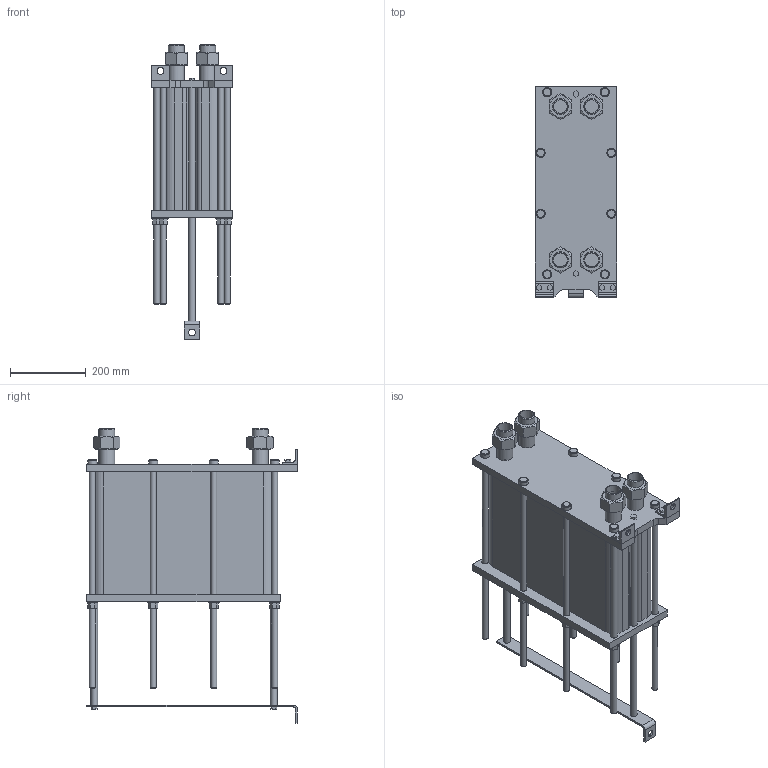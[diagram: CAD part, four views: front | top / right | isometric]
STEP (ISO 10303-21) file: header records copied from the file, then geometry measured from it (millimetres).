
FILE_DESCRIPTION(/* description */ (''),/* implementation_level */ '2;1');
FILE_NAME(/* name */ 'C:\Users\zhuro\Desktop\ENCO\TO\ЭН-004\ЭН-0,5-004-104-1.stp',/* time_stamp */ '2022-06-06T10:52:48+03:00',/* author */ ('zhuro'),/* organization */ (''),/* preprocessor_version */ 'ST-DEVELOPER v18.1',/* originating_system */ 'Autodesk Inventor 2022',/* authorisation */ '');
FILE_SCHEMA (('AUTOMOTIVE_DESIGN { 1 0 10303 214 3 1 1 }'));
Length unit declared in the file: millimetre
Products named in the file (1): ЭН-0,5-004-104-1
Bounding box: 216 x 555 x 776.2 mm (x, y, z)
Volume: 29947342.4 mm3; surface area: 1656732.6 mm2
Topology: 40 solids, 40 shells, 403 faces, 865 edges, 574 vertices
Faces by surface type: plane 272, cylinder 103, cone 28
Full cylindrical faces by diameter (mm): 10 x4, 16 x16, 18 x29, 20 x2, 24 x8, 28 x8, 36.3 x5, 42.3 x9
Entity records: 11137 total; most frequent: CARTESIAN_POINT 1939, DIRECTION 1879, ORIENTED_EDGE 1730, EDGE_CURVE 865, AXIS2_PLACEMENT_3D 658, VERTEX_POINT 574, LINE 563, VECTOR 563
